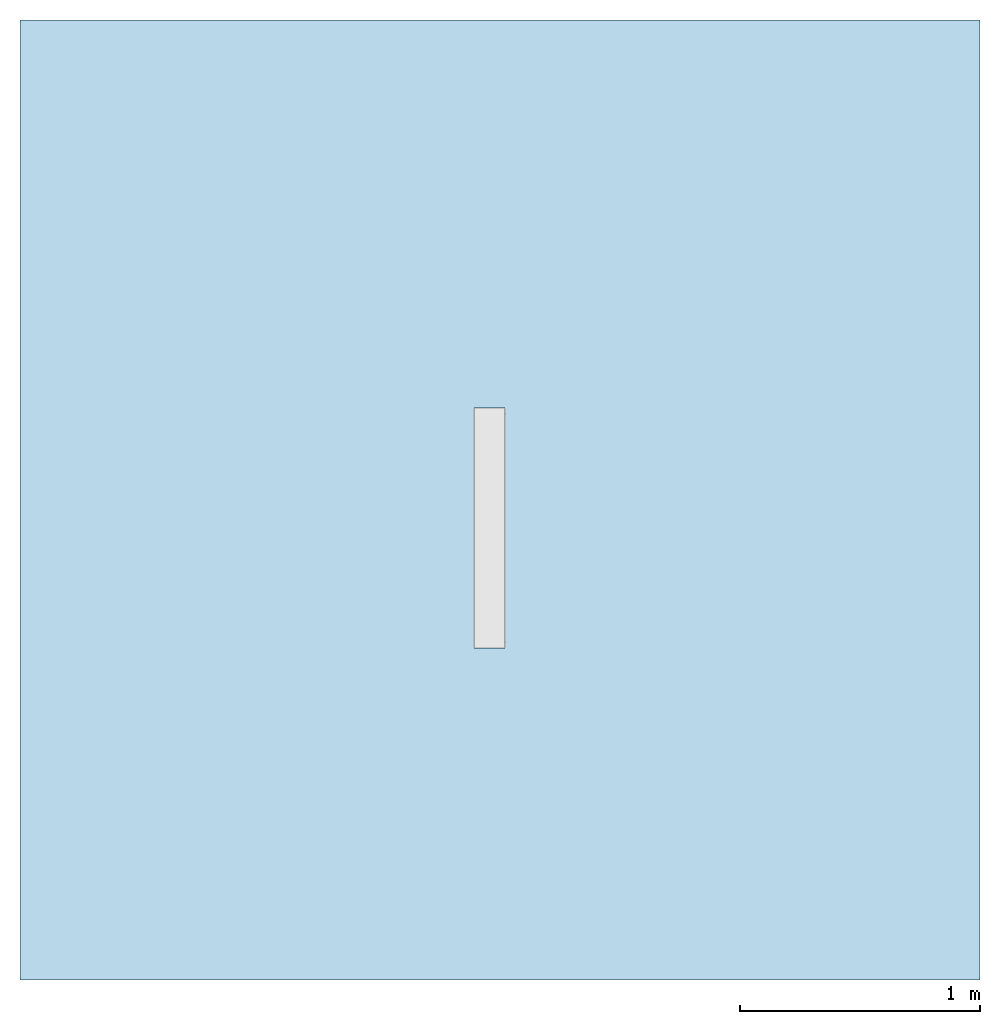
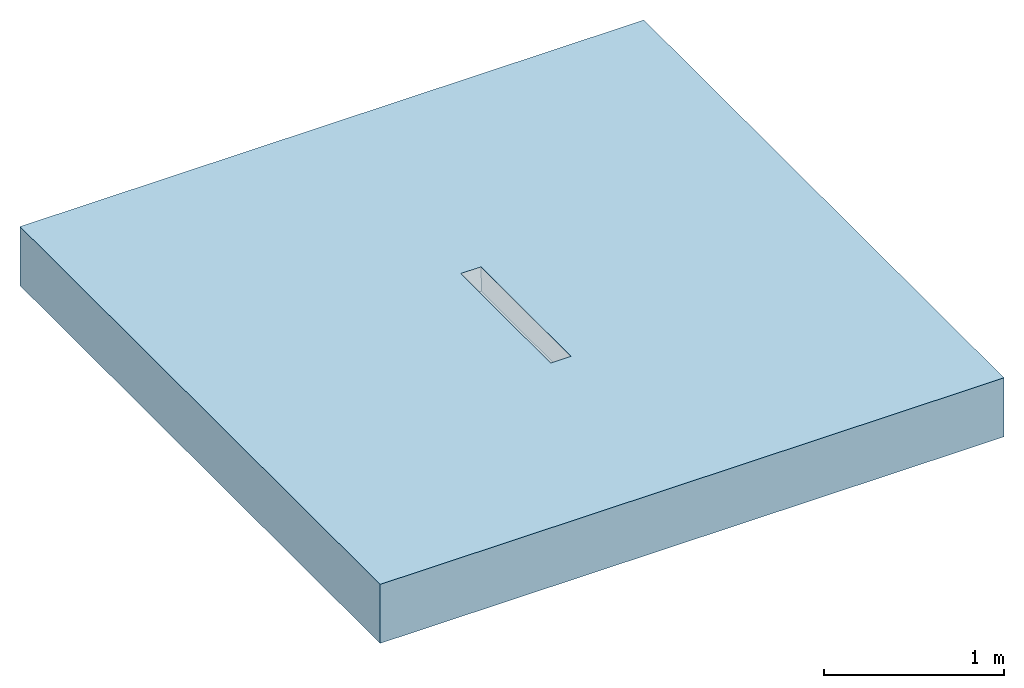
# One storey, incomplete: 1 slab, 1 opening.
"""IFC2X3 building model written with IfcOpenShell, lengths in millimetres."""

from ifc_helpers import new_model, entity, si_unit, converted_unit, derived_unit, direction, frame, frame_2d, origin, place, context, subcontext, project, spatial, polyline, rectangle, outline, extrude, material, layer, layer_set, layer_usage, element, save


model = new_model("IFC2X3")

# Units and contexts
model_context = context("Model", 3, precision=1e-05, world=origin(), true_north=direction((2.0, 6.12303176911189e-17, 1.0)))
context_of_model = context(None, 3, precision=1e-05, world=origin(), true_north=direction((2.0, 6.12303176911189e-17, 1.0)))
body_context = subcontext(model_context, "Body", "Model", "MODEL_VIEW")
ifc_project = project(units=[si_unit("LENGTHUNIT", "METRE", prefix="MILLI"), si_unit("AREAUNIT", "SQUARE_METRE"), si_unit("VOLUMEUNIT", "CUBIC_METRE"), converted_unit("PLANEANGLEUNIT", "DEGREE", entity("IfcRatioMeasure", 0.0174532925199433), si_unit("PLANEANGLEUNIT", "RADIAN"), dimensions=[0, 0, 0, 0, 0, 0, 0]), si_unit("MASSUNIT", "GRAM", prefix="KILO"), si_unit("TIMEUNIT", "SECOND"), si_unit("THERMODYNAMICTEMPERATUREUNIT", "KELVIN"), derived_unit("THERMALTRANSMITTANCEUNIT", [(si_unit("MASSUNIT", "GRAM", prefix="KILO"), 1), (si_unit("THERMODYNAMICTEMPERATUREUNIT", "KELVIN"), -1), (si_unit("TIMEUNIT", "SECOND"), -3)]), derived_unit("VOLUMETRICFLOWRATEUNIT", [(si_unit("LENGTHUNIT", "METRE"), 3), (si_unit("TIMEUNIT", "SECOND"), -1)]), si_unit("POWERUNIT", "WATT")], contexts=[model_context, context_of_model])

# Site, building, storey
site_placement = place(None, origin())
site = spatial("IfcSite", under=ifc_project, at=site_placement, Name="Default", CompositionType="ELEMENT")
building_placement = place(site_placement, origin())
building = spatial("IfcBuilding", under=site, at=building_placement, CompositionType="ELEMENT")
storey_placement = place(building_placement, origin())
storey = spatial("IfcBuildingStorey", under=building, at=storey_placement, Name="Level 1", CompositionType="ELEMENT", Elevation=0.0)

# Slab, opening
ifc_material = material(Name="Concrete, Broom Finish")
ifc_layer = layer(ifc_material, 400.0)
ifc_layer_set = layer_set([ifc_layer], Name="Floor:Generic Floor - 400mm")
ifc_layer_usage = layer_usage(ifc_layer_set, "AXIS3", "POSITIVE", 0.0)
slab_placement = place(storey_placement, origin())
slab = element("IfcSlab", 1, at=slab_placement, inside=storey, material=ifc_layer_usage, Name="Floor:Generic Floor - 400mm", ObjectType="Floor:Generic Floor - 400mm", PredefinedType="FLOOR", context=body_context, shape_type="SweptSolid", body=[
    extrude(rectangle(XDim=4000.0, YDim=4000.0, at=frame_2d((0.0, 0.0), x_axis=(0.0, -1.0))), frame((-42.176138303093, 2.05004766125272, 0.0), z_axis=(0.0, 0.0, -1.0), x_axis=(-1.0, 0.0, 0.0)), (0.0, 0.0, 1.0), 400.0),
])
opening_placement = place(slab_placement, origin())
element("IfcOpeningElement", 2, at=opening_placement, cuts=slab, ObjectType="Recess", context=body_context, shape_type="SweptSolid", body=[
    extrude(outline(polyline([(-3.75000000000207, -67.0), (86.2499999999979, -67.0), (86.2499999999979, 67.0), (-3.75000000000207, 67.0), (-3.74999999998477, 65.0), (-78.7500000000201, 65.0), (-78.7499999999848, -65.0), (-3.75000000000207, -65.0), (-3.75000000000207, -67.0)])), frame((-85.5516920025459, -615.560867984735, -78.7500000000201), z_axis=(0.0, 1.0, 0.0), x_axis=(0.0, 0.0, -1.0)), (0.0, 0.0, 1.0), 1000.0),
])

save(model, "model.ifc")
